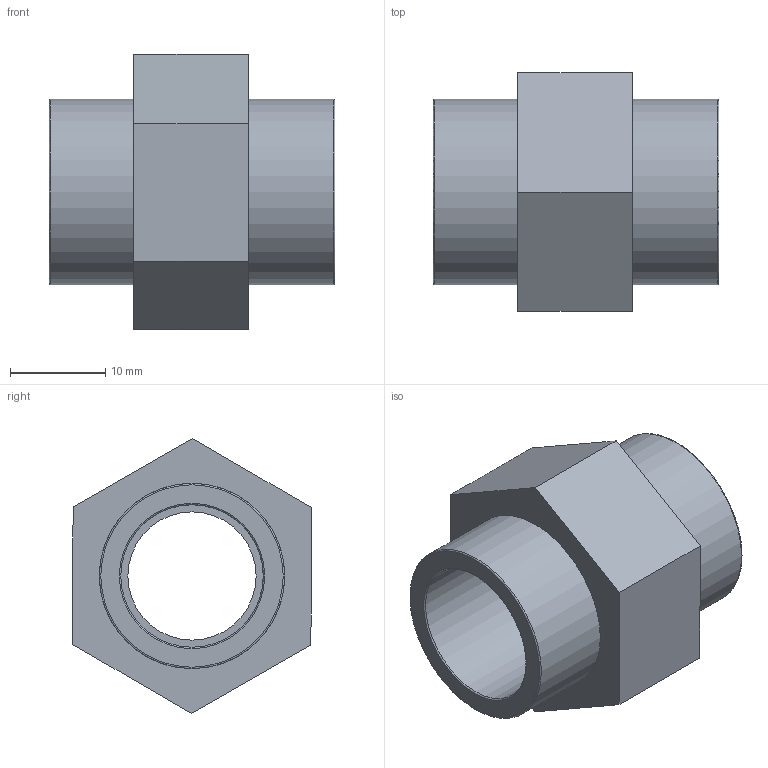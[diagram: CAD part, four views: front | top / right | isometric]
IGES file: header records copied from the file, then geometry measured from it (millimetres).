
Global section: file name: 050101003.ipt; native system: Autodesk Inventor 2015; preprocessor: unknown; author: KIM; date: 20171207.164030; units: millimetre
Bounding box: 30 x 25.04 x 28.87 mm (x, y, z)
Volume: 6701.3 mm3; surface area: 4312.8 mm2
Topology: 1 solids, 1 shells, 21 faces, 55 edges, 40 vertices
Faces by surface type: plane 12, revolution 7, cylinder 2
Full cylindrical faces by diameter (mm): 19.435 x2
